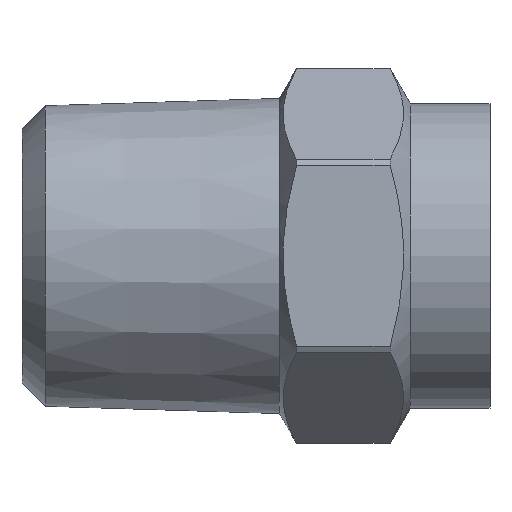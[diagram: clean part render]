
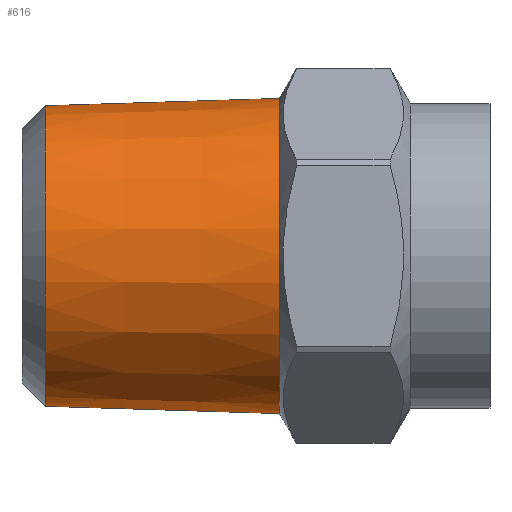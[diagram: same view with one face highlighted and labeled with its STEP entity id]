
A CAD part, top view. The second image highlights one B-rep face of the part: STEP entity #616.
In plain terms, the highlighted conical face has half-angle 1.79 degrees and reference radius 6.562 mm.
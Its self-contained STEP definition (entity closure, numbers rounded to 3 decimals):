
#565=CARTESIAN_POINT('',(1.,6.421,0.));
#566=VERTEX_POINT('',#565);
#567=CARTESIAN_POINT('',(1.,0.0,0.));
#568=DIRECTION('',(-1.0,0.0,0.0));
#569=DIRECTION('',(0.0,-1.0,0.0));
#570=AXIS2_PLACEMENT_3D('',#567,#568,#569);
#571=CIRCLE('',#570,6.421);
#572=EDGE_CURVE('',#566,#566,#571,.T.);
#597=CARTESIAN_POINT('',(5.5,0.0,0.0));
#598=DIRECTION('',(1.0,0.0,0.0));
#599=DIRECTION('',(0.0,1.0,0.0));
#600=AXIS2_PLACEMENT_3D('',#597,#598,#599);
#601=CONICAL_SURFACE('',#600,6.562,1.79);
#602=CARTESIAN_POINT('',(11.0,6.734,0.0));
#603=VERTEX_POINT('',#602);
#604=CARTESIAN_POINT('',(11.0,0.0,0.0));
#605=DIRECTION('',(1.0,0.0,0.0));
#606=DIRECTION('',(0.0,1.0,0.0));
#607=AXIS2_PLACEMENT_3D('',#604,#605,#606);
#608=CIRCLE('',#607,6.734);
#609=EDGE_CURVE('',#603,#603,#608,.T.);
#610=ORIENTED_EDGE('',*,*,#609,.F.);
#611=EDGE_LOOP('',(#610));
#612=FACE_OUTER_BOUND('',#611,.T.);
#613=ORIENTED_EDGE('',*,*,#572,.F.);
#614=EDGE_LOOP('',(#613));
#615=FACE_BOUND('',#614,.T.);
#616=ADVANCED_FACE('',(#612,#615),#601,.T.);
